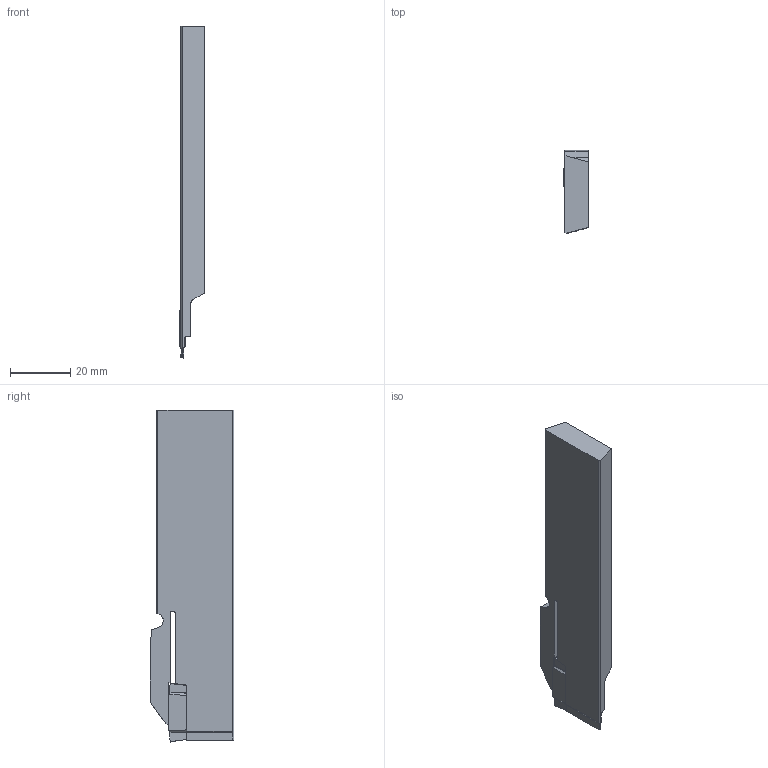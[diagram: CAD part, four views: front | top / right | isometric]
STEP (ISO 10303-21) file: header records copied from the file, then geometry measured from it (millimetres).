
FILE_DESCRIPTION(('CATIA V5 STEP','CAx-IF Rec.Pracs.--- Model Styling and Organization---1.2---2011-12-15'),'2;1');
FILE_NAME('\\nas01\drv1\utils\eitdev\rte\eit\transmagicconvert\db\out\2392091 L.stp','2014-07-13T05:57:42+00:00',('none'),('none'),'CATIA Version 5 Release 21 SP 5 (IN-10)','CATIA V5 STEP AP214','none');
FILE_SCHEMA(('AUTOMOTIVE_DESIGN { 1 0 10303 214 1 1 1 1 }'));
Length unit declared in the file: millimetre
Products named in the file (1): DGFHL 26B-1.5TR-D20
Bounding box: 8.29 x 27.79 x 110.62 mm (x, y, z)
Volume: 17704.8 mm3; surface area: 7598.4 mm2
Topology: 2 solids, 2 shells, 108 faces, 323 edges, 220 vertices
Faces by surface type: plane 66, cylinder 19, bspline 8, extrusion 8, torus 4, cone 3
Entity records: 6198 total; most frequent: CARTESIAN_POINT 3529, ORIENTED_EDGE 610, DIRECTION 399, EDGE_CURVE 305, VECTOR 213, LINE 205, VERTEX_POINT 201, ADVANCED_FACE 108
